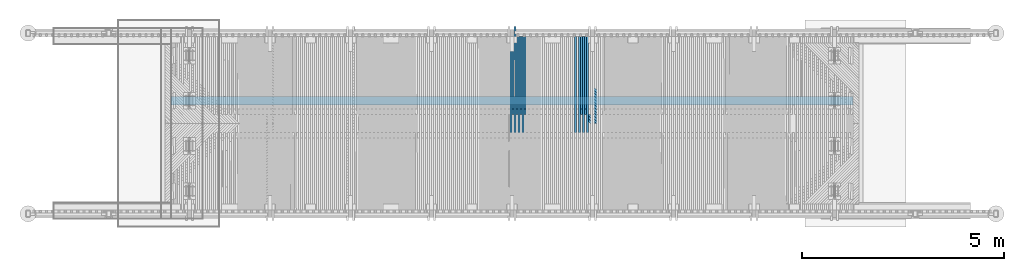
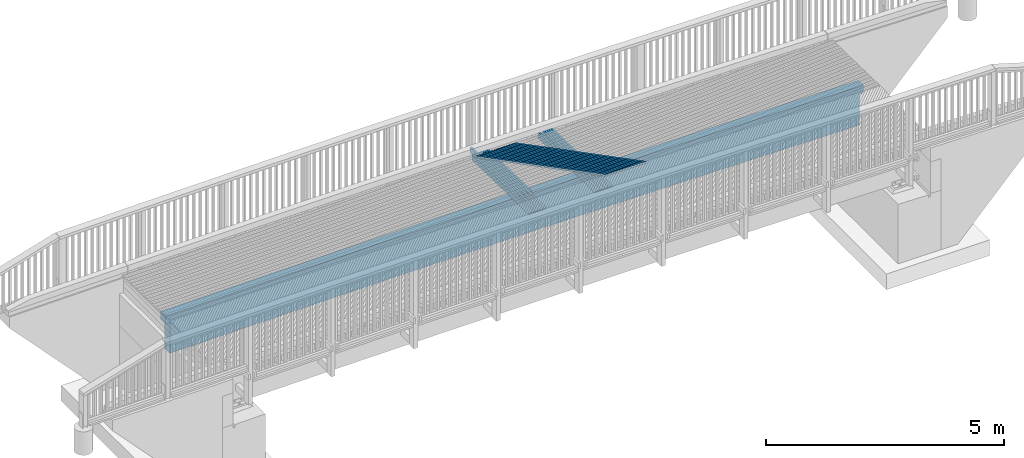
# One storey, part 33 of 52: 29 beams.
"""IFC2X3 building model written with IfcOpenShell, lengths in millimetres."""

from ifc_helpers import new_model, si_unit, frame, origin_with_axes, place, context, subcontext, project, spatial, faceted_brep, material, type_object, element, save


model = new_model("IFC2X3")

# Units and contexts
model_context = context("Model", 3, precision=1e-05, world=origin_with_axes())
body_context = subcontext(model_context, "Body", "Model", "MODEL_VIEW")
ifc_project = project(units=[si_unit("LENGTHUNIT", "METRE", prefix="MILLI"), si_unit("AREAUNIT", "SQUARE_METRE"), si_unit("VOLUMEUNIT", "CUBIC_METRE"), si_unit("MASSUNIT", "GRAM", prefix="KILO"), si_unit("TIMEUNIT", "SECOND"), si_unit("PLANEANGLEUNIT", "RADIAN"), si_unit("SOLIDANGLEUNIT", "STERADIAN"), si_unit("THERMODYNAMICTEMPERATUREUNIT", "DEGREE_CELSIUS"), si_unit("LUMINOUSINTENSITYUNIT", "LUMEN")], contexts=[model_context])

# Site, building, storey
site_placement = place(None, origin_with_axes())
site = spatial("IfcSite", under=ifc_project, at=site_placement, Name="Undefined", CompositionType="ELEMENT")
building_placement = place(site_placement, origin_with_axes())
building = spatial("IfcBuilding", under=site, at=building_placement, Name="Undefined", CompositionType="ELEMENT")
storey_placement = place(building_placement, origin_with_axes())
storey = spatial("IfcBuildingStorey", under=building, at=storey_placement, Name="Undefined", CompositionType="ELEMENT", Elevation=0.0)

# Beams
ifc_material = material(Name="TIMBER/Timber_Undefined")
beam_type_1 = type_object("IfcBeamType", Name="50*50", PredefinedType="NOTDEFINED")
for number, where, z_axis, x_axis, name in (
    (1, (10894.0405199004, 2365.49989967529, 3229.16691949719), (0.707044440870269, 0.70698194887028, -0.0162690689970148), (-0.707162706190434, 0.706948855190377, -0.0120092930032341), "BEAM"),
    (2, (10823.3170835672, 2365.49989967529, 3229.50270179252), (0.70704634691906, 0.706981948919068, -0.0161860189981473), (-0.707161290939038, 0.706948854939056, -0.0120923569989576), "BEAM"),
    (3, (10752.5936082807, 2365.49989967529, 3229.83017686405), (0.70704824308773, 0.706981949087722, -0.0161029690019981), (-0.707159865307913, 0.706948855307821, -0.0121754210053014), "BEAM"),
    (4, (10681.8700950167, 2365.49989967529, 3230.14934470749), (0.707050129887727, 0.706981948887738, -0.0160199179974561), (-0.707158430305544, 0.706948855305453, -0.0122584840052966), "BEAM"),
    (5, (10611.1465447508, 2365.49989967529, 3230.46020531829), (0.707052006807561, 0.70698194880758, -0.0159368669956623), (-0.707156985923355, 0.706948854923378, -0.0123415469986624), "BEAM"),
    (6, (10540.422958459, 2365.49989967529, 3230.76275869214), (0.707053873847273, 0.706981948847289, -0.0158538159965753), (-0.707155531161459, 0.706948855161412, -0.0124246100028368), "BEAM"),
    (7, (10469.6993371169, 2365.49989967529, 3231.05700482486), (0.707055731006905, 0.706981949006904, -0.0157707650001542), (-0.707154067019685, 0.706948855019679, -0.0125076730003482), "BEAM"),
    (8, (10398.9756817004, 2365.49989967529, 3231.34294371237), (0.707057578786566, 0.706981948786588, -0.0156877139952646), (-0.707152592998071, 0.706948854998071, -0.0125907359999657), "BEAM"),
    (9, (10328.2519931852, 2365.49989967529, 3231.62057535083), (0.707059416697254, 0.706981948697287, -0.0156046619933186), (-0.707151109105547, 0.706948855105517, -0.0126737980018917), "BEAM"),
    (10, (10257.5282725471, 2365.49989967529, 3231.88989973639), (0.707061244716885, 0.706981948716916, -0.0155216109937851), (-0.707149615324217, 0.706948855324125, -0.0127568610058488), "BEAM"),
    (11, (10186.8045207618, 2365.49989967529, 3232.15091686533), (0.707063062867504, 0.70698194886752, -0.0154385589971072), (-0.707148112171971, 0.706948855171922, -0.0128399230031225), "BEAM"),
    (12, (10116.0807388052, 2365.49989967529, 3232.40362673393), (0.707064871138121, 0.706981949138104, -0.0153555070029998), (-0.707146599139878, 0.706948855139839, -0.0129229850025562), "BEAM"),
    (13, (10045.356927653, 2365.49989967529, 3232.64802933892), (0.707066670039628, 0.706981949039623, -0.0152724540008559), (-0.707145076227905, 0.706948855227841, -0.0130060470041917), "BEAM"),
    (14, (9974.63308828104, 2365.49989967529, 3232.8841246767), (0.707068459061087, 0.706981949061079, -0.0151894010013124), (-0.707143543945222, 0.706948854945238, -0.0130891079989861), "BEAM"),
):
    element("IfcBeam", number, at=place(storey_placement, frame(where, z_axis=z_axis, x_axis=x_axis)), inside=storey, type_object=beam_type_1, material=ifc_material, Name=name, ObjectType="50*50", context=body_context, shape_type="Brep", body=[
        faceted_brep([(23.5869248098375, 25.0, -25.0000000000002), (-26.4154158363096, 25.0000000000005, 24.9999999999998), (2802.92643296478, 25.0, 24.9999999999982), (2852.92877373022, 25.0000000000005, -25.0), (-25.0011704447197, -25.0, 24.9999999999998), (2804.3406783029, -25.0000000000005, 24.9999999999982), (25.0011701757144, -25.0, -25.0), (2854.34301907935, -24.9999999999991, -25.0)], [[[0, 1, 2, 3]], [[1, 4, 5, 2]], [[4, 6, 7, 5]], [[6, 0, 3, 7]], [[5, 7, 3, 2]], [[6, 4, 1, 0]]]),
    ])
beam_type_2 = type_object("IfcBeamType", Name="150*50", PredefinedType="NOTDEFINED")
for number, where, z_axis, x_axis, name in (
    (15, (9875.54866800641, 4513.4953923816, 3090.22816959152), (0.00303469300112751, 0.0199960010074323, 0.999795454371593), (6.06930000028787e-05, -0.999800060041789, 0.0199959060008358), "BEAM"),
    (16, (9775.52909420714, 4513.4953923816, 3090.53149263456), (0.00286857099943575, 0.0199960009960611, 0.999795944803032), (5.73710000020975e-05, -0.999800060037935, 0.0199959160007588), "BEAM"),
):
    element("IfcBeam", number, at=place(storey_placement, frame(where, z_axis=z_axis, x_axis=x_axis)), inside=storey, type_object=beam_type_2, material=ifc_material, Name=name, ObjectType="150*50", context=body_context, shape_type="Brep", body=[
        faceted_brep([(-1.67788130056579e-07, -24.9999999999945, -74.9999999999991), (-1.67787220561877e-07, 25.0000000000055, -75.0), (2375.00494422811, 25.0000000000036, -74.9999999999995), (2375.0049444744, -24.9999999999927, -74.9999999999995), (1.67786311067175e-07, -24.9999999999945, 75.0000000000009), (1.67786311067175e-07, 25.0000000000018, 75.0), (2150.42515052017, 25.0000000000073, 75.0), (2510.59248715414, 25.0000000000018, 60.5875433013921), (2510.5924871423, -24.9999999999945, 60.5875430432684), (2150.42514405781, -24.9999999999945, 75.0000000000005)], [[[0, 1, 2, 3]], [[0, 4, 5, 1]], [[2, 1, 5, 6, 7]], [[3, 2, 7, 8]], [[4, 0, 3, 8, 9]], [[5, 4, 9, 6]], [[8, 7, 6, 9]]]),
    ])
beam_1_placement = place(storey_placement, frame((9825.54889674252, 4513.49539238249, 3090.37966862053), z_axis=(0.00303469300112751, 0.0199960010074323, 0.999795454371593), x_axis=(6.06930000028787e-05, -0.999800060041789, 0.0199959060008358)))
element("IfcBeam", 17, at=beam_1_placement, inside=storey, type_object=beam_type_2, material=ifc_material, Name="BEAM", ObjectType="150*50", context=body_context, shape_type="Brep", body=[
    faceted_brep([(-1.67788130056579e-07, -24.9999999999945, -74.9999999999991), (1.67786311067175e-07, -24.9999999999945, 75.0000000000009), (1.67786311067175e-07, 25.0000000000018, 75.0), (-1.67787220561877e-07, 25.0000000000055, -75.0), (1789.96936408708, 24.9999999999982, 75.0000000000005), (1928.42646328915, 24.9999999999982, -74.9999999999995), (1928.42646353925, -25.0, -75.0), (1789.96936433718, -25.0000000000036, 74.9999999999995)], [[[0, 1, 2, 3]], [[3, 2, 4, 5]], [[0, 3, 5, 6]], [[1, 0, 6, 7]], [[2, 1, 7, 4]], [[5, 4, 7, 6]]]),
])
beam_2_placement = place(storey_placement, frame((9675.50947138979, 4513.4953923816, 3090.81819688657), z_axis=(0.00270244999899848, 0.0199960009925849, 0.999796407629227), x_axis=(5.40480000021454e-05, -0.999800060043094, 0.0199959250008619)))
element("IfcBeam", 18, at=beam_2_placement, inside=storey, type_object=beam_type_2, material=ifc_material, Name="BEAM", ObjectType="150*50", context=body_context, shape_type="Brep", body=[
    faceted_brep([(-1.67788130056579e-07, -24.9999999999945, -74.9999999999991), (-1.67787220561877e-07, 25.0000000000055, -75.0), (2375.00494422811, 25.0000000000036, -74.9999999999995), (2375.0049444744, -24.9999999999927, -74.9999999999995), (1.67786311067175e-07, -24.9999999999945, 75.0000000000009), (1.67786311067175e-07, 25.0000000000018, 75.0), (2150.42515052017, 25.0000000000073, 75.0), (2510.59248715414, 25.0000000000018, 60.5875433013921), (2510.5924871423, -24.9999999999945, 60.5875430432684), (2150.42514405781, -24.9999999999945, 75.0000000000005)], [[[0, 1, 2, 3]], [[0, 4, 5, 1]], [[2, 1, 5, 6, 7]], [[3, 2, 7, 8]], [[4, 0, 3, 8, 9]], [[5, 4, 9, 6]], [[8, 7, 6, 9]]]),
])
beam_3_placement = place(storey_placement, frame((9725.52929846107, 4513.49539238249, 3090.67468393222), z_axis=(0.00286857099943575, 0.0199960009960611, 0.999795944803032), x_axis=(5.73710000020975e-05, -0.999800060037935, 0.0199959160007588)))
element("IfcBeam", 19, at=beam_3_placement, inside=storey, type_object=beam_type_2, material=ifc_material, Name="BEAM", ObjectType="150*50", context=body_context, shape_type="Brep", body=[
    faceted_brep([(-1.67788130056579e-07, -24.9999999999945, -74.9999999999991), (1.67786311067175e-07, -24.9999999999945, 75.0000000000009), (1.67786311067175e-07, 25.0000000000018, 75.0), (-1.67787220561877e-07, 25.0000000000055, -75.0), (1789.96936408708, 24.9999999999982, 75.0000000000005), (1928.42646328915, 24.9999999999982, -74.9999999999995), (1928.42646353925, -25.0, -75.0), (1789.96936433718, -25.0000000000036, 74.9999999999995)], [[[0, 1, 2, 3]], [[3, 2, 4, 5]], [[0, 3, 5, 6]], [[1, 0, 6, 7]], [[2, 1, 7, 4]], [[5, 4, 7, 6]]]),
])
for number, where, z_axis, x_axis, name in (
    (20, (9575.48980231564, 4513.4953923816, 3091.08828233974), (0.0025363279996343, 0.0199960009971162, 0.999796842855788), (5.07260000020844e-05, -0.999800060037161, 0.0199959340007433), "BEAM"),
    (21, (8275.23115137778, 4513.4953923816, 3093.08707977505), (0.000376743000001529, 0.0199960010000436, 0.999799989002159), (7.53400000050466e-06, -0.999800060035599, 0.0199959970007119), "BEAM"),
):
    element("IfcBeam", number, at=place(storey_placement, frame(where, z_axis=z_axis, x_axis=x_axis)), inside=storey, type_object=beam_type_2, material=ifc_material, Name=name, ObjectType="150*50", context=body_context, shape_type="Brep", body=[
        faceted_brep([(-1.67788130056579e-07, -24.9999999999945, -74.9999999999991), (-1.67787220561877e-07, 25.0000000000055, -75.0), (2375.00494422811, 25.0000000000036, -74.9999999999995), (2375.0049444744, -24.9999999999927, -74.9999999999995), (1.67786311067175e-07, -24.9999999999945, 75.0000000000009), (1.67786311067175e-07, 25.0000000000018, 75.0), (2150.42515052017, 25.0000000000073, 75.0), (2510.59248715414, 25.0000000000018, 60.5875433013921), (2510.5924871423, -24.9999999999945, 60.5875430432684), (2150.42514405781, -24.9999999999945, 75.0000000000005)], [[[0, 1, 2, 3]], [[0, 4, 5, 1]], [[2, 1, 5, 6, 7]], [[3, 2, 7, 8]], [[4, 0, 3, 8, 9]], [[5, 4, 9, 6]], [[8, 7, 6, 9]]]),
    ])
beam_4_placement = place(storey_placement, frame((8325.25117695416, 4513.49539238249, 3093.05992196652), z_axis=(0.000542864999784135, 0.0199960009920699, 0.999799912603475), x_axis=(1.08570000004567e-05, -0.999800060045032, 0.0199959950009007)))
element("IfcBeam", 22, at=beam_4_placement, inside=storey, type_object=beam_type_2, material=ifc_material, Name="BEAM", ObjectType="150*50", context=body_context, shape_type="Brep", body=[
    faceted_brep([(-1.67788130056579e-07, -24.9999999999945, -74.9999999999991), (1.67786311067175e-07, -24.9999999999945, 75.0000000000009), (1.67786311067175e-07, 25.0000000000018, 75.0), (-1.67787220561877e-07, 25.0000000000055, -75.0), (1789.96936408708, 24.9999999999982, 75.0000000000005), (1928.42646328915, 24.9999999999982, -74.9999999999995), (1928.42646353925, -25.0, -75.0), (1789.96936433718, -25.0000000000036, 74.9999999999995)], [[[0, 1, 2, 3]], [[3, 2, 4, 5]], [[0, 3, 5, 6]], [[1, 0, 6, 7]], [[2, 1, 7, 4]], [[5, 4, 7, 6]]]),
])
beam_5_placement = place(storey_placement, frame((8175.21112464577, 4513.4953923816, 3093.12450147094), z_axis=(0.000210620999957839, 0.0199960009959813, 0.999800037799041), x_axis=(4.21200000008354e-06, -0.999800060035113, 0.0199959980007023)))
element("IfcBeam", 23, at=beam_5_placement, inside=storey, type_object=beam_type_2, material=ifc_material, Name="BEAM", ObjectType="150*50", context=body_context, shape_type="Brep", body=[
    faceted_brep([(-1.67788130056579e-07, -24.9999999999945, -74.9999999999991), (-1.67787220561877e-07, 25.0000000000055, -75.0), (2375.00494422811, 25.0000000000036, -74.9999999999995), (2375.0049444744, -24.9999999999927, -74.9999999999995), (1.67786311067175e-07, -24.9999999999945, 75.0000000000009), (1.67786311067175e-07, 25.0000000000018, 75.0), (2150.42515052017, 25.0000000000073, 75.0), (2510.59248715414, 25.0000000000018, 60.5875433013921), (2510.5924871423, -24.9999999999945, 60.5875430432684), (2150.42514405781, -24.9999999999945, 75.0000000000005)], [[[0, 1, 2, 3]], [[0, 4, 5, 1]], [[2, 1, 5, 6, 7]], [[3, 2, 7, 8]], [[4, 0, 3, 8, 9]], [[5, 4, 9, 6]], [[8, 7, 6, 9]]]),
])
for number, where, z_axis, x_axis, name in (
    (24, (8225.23115404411, 4513.49539238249, 3093.10565475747), (0.000376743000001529, 0.0199960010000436, 0.999799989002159), (7.53400000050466e-06, -0.999800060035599, 0.0199959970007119), "BEAM"),
    (25, (8125.21112491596, 4513.49539238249, 3093.13476868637), (0.000210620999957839, 0.0199960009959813, 0.999800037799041), (4.21200000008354e-06, -0.999800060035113, 0.0199959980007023), "BEAM"),
):
    element("IfcBeam", number, at=place(storey_placement, frame(where, z_axis=z_axis, x_axis=x_axis)), inside=storey, type_object=beam_type_2, material=ifc_material, Name=name, ObjectType="150*50", context=body_context, shape_type="Brep", body=[
        faceted_brep([(-1.67788130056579e-07, -24.9999999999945, -74.9999999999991), (1.67786311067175e-07, -24.9999999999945, 75.0000000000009), (1.67786311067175e-07, 25.0000000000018, 75.0), (-1.67787220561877e-07, 25.0000000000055, -75.0), (1789.96936408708, 24.9999999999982, 75.0000000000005), (1928.42646328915, 24.9999999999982, -74.9999999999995), (1928.42646353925, -25.0, -75.0), (1789.96936433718, -25.0000000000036, 74.9999999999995)], [[[0, 1, 2, 3]], [[3, 2, 4, 5]], [[0, 3, 5, 6]], [[1, 0, 6, 7]], [[2, 1, 7, 4]], [[5, 4, 7, 6]]]),
    ])
beam_6_placement = place(storey_placement, frame((7975.1710594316, 4513.4953923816, 3093.14948827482), z_axis=(-0.000121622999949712, 0.0199960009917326, 0.999800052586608), x_axis=(-2.43299999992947e-06, -0.999800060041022, 0.0199959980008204)))
element("IfcBeam", 26, at=beam_6_placement, inside=storey, type_object=beam_type_2, material=ifc_material, Name="BEAM", ObjectType="150*50", context=body_context, shape_type="Brep", body=[
    faceted_brep([(-1.67788130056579e-07, -24.9999999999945, -74.9999999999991), (-1.67787220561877e-07, 25.0000000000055, -75.0), (2375.00494422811, 25.0000000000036, -74.9999999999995), (2375.0049444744, -24.9999999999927, -74.9999999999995), (1.67786311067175e-07, -24.9999999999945, 75.0000000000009), (1.67786311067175e-07, 25.0000000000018, 75.0), (2150.42515052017, 25.0000000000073, 75.0), (2510.59248715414, 25.0000000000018, 60.5875433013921), (2510.5924871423, -24.9999999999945, 60.5875430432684), (2150.42514405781, -24.9999999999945, 75.0000000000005)], [[[0, 1, 2, 3]], [[0, 4, 5, 1]], [[2, 1, 5, 6, 7]], [[3, 2, 7, 8]], [[4, 0, 3, 8, 9]], [[5, 4, 9, 6]], [[8, 7, 6, 9]]]),
])
beam_7_placement = place(storey_placement, frame((8025.19109233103, 4513.49539238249, 3093.14726375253), z_axis=(4.44979999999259e-05, 0.0199960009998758, 0.999800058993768), x_axis=(8.90000000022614e-07, -0.999800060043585, 0.0199959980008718)))
element("IfcBeam", 27, at=beam_7_placement, inside=storey, type_object=beam_type_2, material=ifc_material, Name="BEAM", ObjectType="150*50", context=body_context, shape_type="Brep", body=[
    faceted_brep([(-1.67788130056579e-07, -24.9999999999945, -74.9999999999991), (1.67786311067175e-07, -24.9999999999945, 75.0000000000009), (1.67786311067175e-07, 25.0000000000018, 75.0), (-1.67787220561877e-07, 25.0000000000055, -75.0), (1789.96936408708, 24.9999999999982, 75.0000000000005), (1928.42646328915, 24.9999999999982, -74.9999999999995), (1928.42646353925, -25.0, -75.0), (1789.96936433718, -25.0000000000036, 74.9999999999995)], [[[0, 1, 2, 3]], [[3, 2, 4, 5]], [[0, 3, 5, 6]], [[1, 0, 6, 7]], [[2, 1, 7, 4]], [[5, 4, 7, 6]]]),
])
beam_8_placement = place(storey_placement, frame((8075.17061305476, 4771.44380785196, 3087.98545943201), z_axis=(4.44979999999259e-05, 0.0199960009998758, 0.999800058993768), x_axis=(8.90000000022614e-07, -0.999800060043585, 0.0199959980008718)))
element("IfcBeam", 28, at=beam_8_placement, inside=storey, type_object=beam_type_2, material=ifc_material, Name="BEAM", ObjectType="150*50", context=body_context, shape_type="Brep", body=[
    faceted_brep([(-1.67788130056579e-07, -24.9999999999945, -74.9999999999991), (-1.67787220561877e-07, 25.0000000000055, -75.0), (2633.00494750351, 25.0, -74.9999999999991), (2633.00494763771, -25.0, -74.9999999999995), (1.67786311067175e-07, -24.9999999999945, 75.0000000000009), (1.67786311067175e-07, 25.0000000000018, 75.0), (2408.42506824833, 25.0, 75.0000000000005), (2768.59248710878, 24.9999999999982, 60.5875398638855), (2768.59248713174, -25.0, 60.5875397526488), (2408.42506549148, -25.0, 75.0000000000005)], [[[0, 1, 2, 3]], [[0, 4, 5, 1]], [[2, 1, 5, 6, 7]], [[3, 2, 7, 8]], [[4, 0, 3, 8, 9]], [[5, 4, 9, 6]], [[8, 7, 6, 9]]]),
])
beam_type_3 = type_object("IfcBeamType", Name="990*215", PredefinedType="NOTDEFINED")
beam_9_placement = place(storey_placement, frame((243.613169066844, 2925.0, 2502.11879463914), z_axis=(0.0, 0.0, 1.0), x_axis=(1.0, 0.0, 0.0)))
element("IfcBeam", 29, at=beam_9_placement, inside=storey, type_object=beam_type_3, material=ifc_material, Name="PALKKI", ObjectType="990*215", context=body_context, shape_type="Brep", body=[
    faceted_brep([(16106.3868309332, 107.5, -494.790894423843), (16106.3868309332, -107.5, -494.790894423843), (16080.5342107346, -107.5, -494.790894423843), (15793.4597682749, -107.5, -494.790894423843), (15506.3868309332, -107.5, -494.958794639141), (15506.3868309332, 107.5, -494.958794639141), (15793.4597682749, 107.5, -494.790894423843), (16080.5342107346, 107.5, -494.790894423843), (16106.3868309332, 107.5, 285.209105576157), (16106.3868309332, -107.5, 285.209105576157), (16206.3868309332, 107.5, 285.209105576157), (16206.3868309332, -107.5, 285.209105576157), (16206.3868309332, 107.5, 485.682039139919), (16206.3868309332, -107.5, 485.682039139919), (-627.370013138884, 107.5, 486.625216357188), (-627.370013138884, -107.5, 486.625216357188), (-316.879497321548, -107.5, 490.87213125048), (-316.879497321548, 107.5, 490.87213125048), (-693.613169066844, -107.5, 485.684940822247), (-693.613169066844, -107.5, 285.209105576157), (-624.563039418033, -107.5, 285.209105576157), (-693.613169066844, 107.5, 485.684940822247), (-693.613169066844, 107.5, 285.209105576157), (-624.563039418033, 107.5, 285.209105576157), (-593.613169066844, 107.5, 285.209105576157), (-593.613169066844, -107.5, 285.209105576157), (-593.613169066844, 107.5, -494.790894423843), (-593.613169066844, -107.5, -494.790894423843), (-303.651924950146, -107.5, -494.790894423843), (-6.38683093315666, -107.5, 494.958794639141), (6.38683093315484, -107.5, -494.958794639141), (-6.38683093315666, 107.5, 494.958794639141), (6.38683093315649, 107.5, -494.790894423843), (304.107903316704, 107.5, 498.885205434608), (316.370645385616, 107.5, -491.038844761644), (-303.651924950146, 107.5, -494.790894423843), (316.370645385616, -107.5, -491.038844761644), (304.107903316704, -107.5, 498.885205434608), (614.604622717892, -107.5, 502.651362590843), (614.604622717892, 107.5, 502.651362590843), (626.356441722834, 107.5, -487.278884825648), (626.356441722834, -107.5, -487.278884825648), (936.344137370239, -107.5, -483.678915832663), (925.103244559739, -107.5, 506.257265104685), (925.103244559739, 107.5, 506.257265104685), (936.344137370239, 107.5, -483.678915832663), (1246.33364975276, 107.5, -480.238938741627), (1246.33364975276, -107.5, -480.238938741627), (1235.60368613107, -107.5, 509.702912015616), (1235.60368613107, 107.5, 509.702912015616), (1546.10586472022, 107.5, 512.988302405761), (1556.32489629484, 107.5, -476.958954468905), (1556.32489629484, -107.5, -476.958954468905), (1546.10586472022, -107.5, 512.988302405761), (1856.60969761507, -107.5, 516.113435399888), (1856.60969761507, 107.5, 516.113435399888), (1866.31779442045, 107.5, -473.838963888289), (1866.31779442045, -107.5, -473.838963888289), (2176.31226155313, -107.5, -470.878967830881), (2167.11510210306, -107.5, 519.078310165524), (2167.11510210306, 107.5, 519.078310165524), (2176.31226155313, 107.5, -470.878967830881), (2486.30821511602, 107.5, -468.078967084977), (2486.30821511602, -107.5, -468.078967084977), (2477.6219954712, -107.5, 521.882925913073), (2477.6219954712, 107.5, 521.882925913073), (2788.13029500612, 107.5, 524.527281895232), (2796.30557253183, 107.5, -465.438962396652), (2796.30557253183, -107.5, -465.438962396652), (2788.13029500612, -107.5, 524.527281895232), (3098.63991799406, -107.5, 527.011377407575), (3098.63991799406, 107.5, 527.011377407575), (3106.30425122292, 107.5, -462.958954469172), (3106.30425122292, -107.5, -462.958954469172), (3416.30416861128, -107.5, -460.638943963), (3409.15078172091, -107.5, 529.335211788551), (3409.15078172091, 107.5, 529.335211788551), (3416.30416861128, 107.5, -460.638943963), (3726.30524211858, 107.5, -458.478931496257), (3726.30524211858, -107.5, -458.478931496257), (3719.66280347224, -107.5, 531.49878441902), (3719.66280347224, 107.5, 531.49878441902), (4030.1759005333, 107.5, 533.502094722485), (4036.3073891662, 107.5, -456.478917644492), (4036.3073891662, -107.5, -456.478917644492), (4030.1759005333, -107.5, 533.502094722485), (4340.68999018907, -107.5, 535.345142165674), (4340.68999018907, 107.5, 535.345142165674), (4346.3105271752, 107.5, -454.638902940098), (4346.3105271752, -107.5, -454.638902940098), (4656.31457356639, -107.5, -452.958887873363), (4651.20498972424, -107.5, 537.027926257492), (4651.20498972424, 107.5, 537.027926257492), (4656.31457356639, 107.5, -452.958887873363), (4966.31944576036, 107.5, -451.438872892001), (4966.31944576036, -107.5, -451.438872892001), (4961.72081642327, -107.5, 538.550446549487), (4961.72081642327, 107.5, 538.550446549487), (5272.23738757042, 107.5, 539.912702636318), (5276.32506117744, 107.5, -450.078858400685), (5276.32506117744, -107.5, -450.078858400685), (5272.23738757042, -107.5, 539.912702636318), (5582.75462044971, -107.5, 541.114694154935), (5582.75462044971, 107.5, 541.114694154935), (5586.33133723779, 107.5, -448.878844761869), (5586.33133723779, -107.5, -448.878844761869), (5896.33819136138, -107.5, -447.838832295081), (5893.27243234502, -107.5, 542.156420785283), (5893.27243234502, 107.5, 542.156420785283), (5896.33819136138, 107.5, -447.838832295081), (6206.34554096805, 107.5, -446.958821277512), (6206.34554096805, -107.5, -446.958821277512), (6203.79074054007, -107.5, 543.037882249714), (6203.79074054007, 107.5, 543.037882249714), (6514.30946231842, 107.5, 543.759078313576), (6516.35330347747, 107.5, -446.238811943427), (6516.35330347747, -107.5, -446.238811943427), (6514.30946231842, -107.5, 543.759078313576), (6824.82851496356, -107.5, 544.320008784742), (6824.82851496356, 107.5, 544.320008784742), (6826.36139630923, 107.5, -445.678804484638), (6826.36139630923, -107.5, -445.678804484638), (7136.36973688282, -107.5, -445.278799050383), (7135.34781575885, -107.5, 544.720673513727), (7135.34781575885, 107.5, 544.720673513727), (7136.36973688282, 107.5, -445.278799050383), (7446.37824261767, 107.5, -445.038795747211), (7446.37824261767, -107.5, -445.038795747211), (7445.86728198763, -107.5, 544.961072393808), (7445.86728198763, 107.5, 544.961072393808), (7756.38683093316, 107.5, 545.041205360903), (7756.38683093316, 107.5, -444.958794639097), (7756.38683093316, -107.5, -444.958794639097), (7756.38683093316, -107.5, 545.041205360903), (8066.90637987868, -107.5, 544.961072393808), (8066.90637987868, 107.5, 544.961072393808), (8066.39541924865, 107.5, -445.038795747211), (8066.39541924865, -107.5, -445.038795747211), (8376.40392498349, -107.5, -445.278799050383), (8377.42584610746, -107.5, 544.720673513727), (8377.42584610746, 107.5, 544.720673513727), (8376.40392498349, 107.5, -445.278799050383), (8686.41226555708, 107.5, -445.678804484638), (8686.41226555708, -107.5, -445.678804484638), (8687.94514690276, -107.5, 544.320008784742), (8687.94514690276, 107.5, 544.320008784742), (8998.46419954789, 107.5, 543.759078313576), (8996.42035838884, 107.5, -446.238811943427), (8996.42035838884, -107.5, -446.238811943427), (8998.46419954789, -107.5, 543.759078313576), (9308.98292132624, -107.5, 543.037882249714), (9308.98292132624, 107.5, 543.037882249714), (9306.42812089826, 107.5, -446.958821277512), (9306.42812089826, -107.5, -446.958821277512), (9616.43547050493, -107.5, -447.838832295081), (9619.50122952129, -107.5, 542.156420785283), (9619.50122952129, 107.5, 542.156420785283), (9616.43547050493, 107.5, -447.838832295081), (9926.44232462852, 107.5, -448.878844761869), (9926.44232462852, -107.5, -448.878844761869), (9930.0190414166, -107.5, 541.114694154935), (9930.0190414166, 107.5, 541.114694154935), (10240.5362742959, 107.5, 539.912702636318), (10236.4486006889, 107.5, -450.078858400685), (10236.4486006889, -107.5, -450.078858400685), (10240.5362742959, -107.5, 539.912702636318), (10551.052845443, -107.5, 538.550446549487), (10551.052845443, 107.5, 538.550446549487), (10546.454216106, 107.5, -451.438872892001), (10546.454216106, -107.5, -451.438872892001), (10856.4590882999, -107.5, -452.958887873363), (10861.5686721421, -107.5, 537.027926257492), (10861.5686721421, 107.5, 537.027926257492), (10856.4590882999, 107.5, -452.958887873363), (11166.4631346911, 107.5, -454.638902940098), (11166.4631346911, -107.5, -454.638902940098), (11172.0836716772, -107.5, 535.345142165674), (11172.0836716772, 107.5, 535.345142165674), (11482.597761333, 107.5, 533.502094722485), (11476.4662727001, 107.5, -456.478917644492), (11476.4662727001, -107.5, -456.478917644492), (11482.597761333, -107.5, 533.502094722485), (11793.1108583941, -107.5, 531.49878441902), (11793.1108583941, 107.5, 531.49878441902), (11786.4684197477, 107.5, -458.478931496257), (11786.4684197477, -107.5, -458.478931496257), (12096.469493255, -107.5, -460.638943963), (12103.6228801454, -107.5, 529.335211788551), (12103.6228801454, 107.5, 529.335211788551), (12096.469493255, 107.5, -460.638943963), (12406.4694106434, 107.5, -462.958954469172), (12406.4694106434, -107.5, -462.958954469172), (12414.1337438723, -107.5, 527.011377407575), (12414.1337438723, 107.5, 527.011377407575), (12724.6433668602, 107.5, 524.527281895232), (12716.4680893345, 107.5, -465.438962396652), (12716.4680893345, -107.5, -465.438962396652), (12724.6433668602, -107.5, 524.527281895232), (13035.1516663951, -107.5, 521.882925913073), (13035.1516663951, 107.5, 521.882925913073), (13026.4654467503, 107.5, -468.078967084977), (13026.4654467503, -107.5, -468.078967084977), (13336.4614003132, -107.5, -470.878967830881), (13345.6585597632, -107.5, 519.078310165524), (13345.6585597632, 107.5, 519.078310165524), (13336.4614003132, 107.5, -470.878967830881), (13646.4558674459, 107.5, -473.838963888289), (13646.4558674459, -107.5, -473.838963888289), (13656.1639642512, -107.5, 516.113435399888), (13656.1639642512, 107.5, 516.113435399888), (13966.6677971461, 107.5, 512.988302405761), (13956.4487655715, 107.5, -476.958954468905), (13956.4487655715, -107.5, -476.958954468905), (13966.6677971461, -107.5, 512.988302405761), (14277.1699757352, -107.5, 509.702912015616), (14277.1699757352, 107.5, 509.702912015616), (14266.4400121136, 107.5, -480.238938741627), (14266.4400121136, -107.5, -480.238938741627), (14576.4295244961, -107.5, -483.678915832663), (14587.6704173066, -107.5, 506.257265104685), (14587.6704173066, 107.5, 506.257265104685), (14576.4295244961, 107.5, -483.678915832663), (14886.4172201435, 107.5, -487.278884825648), (14886.4172201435, -107.5, -487.278884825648), (14898.1690391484, -107.5, 502.651362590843), (14898.1690391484, 107.5, 502.651362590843), (15208.6657585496, 107.5, 498.885205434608), (15196.4030164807, 107.5, -491.038844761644), (15196.4030164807, -107.5, -491.038844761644), (15208.6657585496, -107.5, 498.885205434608), (15519.1604927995, -107.5, 494.958794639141), (15519.1604927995, 107.5, 494.958794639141), (15806.6537751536, -107.5, 491.180342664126), (15806.6537751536, 107.5, 491.180342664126), (16094.1452189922, -107.5, 487.264500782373), (16094.1452189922, 107.5, 487.264500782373)], [[[0, 1, 2, 3, 4, 5, 6, 7]], [[8, 9, 1, 0]], [[10, 11, 9, 8]], [[12, 13, 11, 10]], [[14, 15, 16, 17]], [[15, 18, 19, 20]], [[21, 22, 19, 18]], [[15, 14, 21, 18]], [[21, 14, 23, 22]], [[24, 25, 20, 19, 22, 23]], [[26, 27, 25, 24]], [[16, 15, 20, 25, 27, 28]], [[29, 16, 28, 30]], [[17, 16, 29, 31]], [[32, 31, 33, 34]], [[17, 31, 32, 35]], [[24, 23, 14, 17, 35, 26]], [[32, 30, 28, 27, 26, 35]], [[34, 36, 30, 32]], [[29, 30, 36, 37]], [[31, 29, 37, 33]], [[33, 37, 38, 39]], [[34, 33, 39, 40]], [[36, 34, 40, 41]], [[37, 36, 41, 38]], [[38, 41, 42, 43]], [[39, 38, 43, 44]], [[40, 39, 44, 45]], [[41, 40, 45, 42]], [[42, 45, 46, 47]], [[43, 42, 47, 48]], [[44, 43, 48, 49]], [[45, 44, 49, 46]], [[46, 49, 50, 51]], [[47, 46, 51, 52]], [[48, 47, 52, 53]], [[49, 48, 53, 50]], [[50, 53, 54, 55]], [[51, 50, 55, 56]], [[52, 51, 56, 57]], [[53, 52, 57, 54]], [[54, 57, 58, 59]], [[55, 54, 59, 60]], [[56, 55, 60, 61]], [[57, 56, 61, 58]], [[58, 61, 62, 63]], [[59, 58, 63, 64]], [[60, 59, 64, 65]], [[61, 60, 65, 62]], [[62, 65, 66, 67]], [[63, 62, 67, 68]], [[64, 63, 68, 69]], [[65, 64, 69, 66]], [[66, 69, 70, 71]], [[67, 66, 71, 72]], [[68, 67, 72, 73]], [[69, 68, 73, 70]], [[70, 73, 74, 75]], [[71, 70, 75, 76]], [[72, 71, 76, 77]], [[73, 72, 77, 74]], [[74, 77, 78, 79]], [[75, 74, 79, 80]], [[76, 75, 80, 81]], [[77, 76, 81, 78]], [[78, 81, 82, 83]], [[79, 78, 83, 84]], [[80, 79, 84, 85]], [[81, 80, 85, 82]], [[82, 85, 86, 87]], [[83, 82, 87, 88]], [[84, 83, 88, 89]], [[85, 84, 89, 86]], [[86, 89, 90, 91]], [[87, 86, 91, 92]], [[88, 87, 92, 93]], [[89, 88, 93, 90]], [[90, 93, 94, 95]], [[91, 90, 95, 96]], [[92, 91, 96, 97]], [[93, 92, 97, 94]], [[94, 97, 98, 99]], [[95, 94, 99, 100]], [[96, 95, 100, 101]], [[97, 96, 101, 98]], [[98, 101, 102, 103]], [[99, 98, 103, 104]], [[100, 99, 104, 105]], [[101, 100, 105, 102]], [[102, 105, 106, 107]], [[103, 102, 107, 108]], [[104, 103, 108, 109]], [[105, 104, 109, 106]], [[106, 109, 110, 111]], [[107, 106, 111, 112]], [[108, 107, 112, 113]], [[109, 108, 113, 110]], [[110, 113, 114, 115]], [[111, 110, 115, 116]], [[112, 111, 116, 117]], [[113, 112, 117, 114]], [[114, 117, 118, 119]], [[115, 114, 119, 120]], [[116, 115, 120, 121]], [[117, 116, 121, 118]], [[118, 121, 122, 123]], [[119, 118, 123, 124]], [[120, 119, 124, 125]], [[121, 120, 125, 122]], [[122, 125, 126, 127]], [[123, 122, 127, 128]], [[124, 123, 128, 129]], [[125, 124, 129, 126]], [[126, 129, 130, 131]], [[127, 126, 131, 132]], [[128, 127, 132, 133]], [[129, 128, 133, 130]], [[130, 133, 134, 135]], [[131, 130, 135, 136]], [[132, 131, 136, 137]], [[133, 132, 137, 134]], [[134, 137, 138, 139]], [[135, 134, 139, 140]], [[136, 135, 140, 141]], [[137, 136, 141, 138]], [[138, 141, 142, 143]], [[139, 138, 143, 144]], [[140, 139, 144, 145]], [[141, 140, 145, 142]], [[142, 145, 146, 147]], [[143, 142, 147, 148]], [[144, 143, 148, 149]], [[145, 144, 149, 146]], [[146, 149, 150, 151]], [[147, 146, 151, 152]], [[148, 147, 152, 153]], [[149, 148, 153, 150]], [[150, 153, 154, 155]], [[151, 150, 155, 156]], [[152, 151, 156, 157]], [[153, 152, 157, 154]], [[154, 157, 158, 159]], [[155, 154, 159, 160]], [[156, 155, 160, 161]], [[157, 156, 161, 158]], [[158, 161, 162, 163]], [[159, 158, 163, 164]], [[160, 159, 164, 165]], [[161, 160, 165, 162]], [[162, 165, 166, 167]], [[163, 162, 167, 168]], [[164, 163, 168, 169]], [[165, 164, 169, 166]], [[166, 169, 170, 171]], [[167, 166, 171, 172]], [[168, 167, 172, 173]], [[169, 168, 173, 170]], [[170, 173, 174, 175]], [[171, 170, 175, 176]], [[172, 171, 176, 177]], [[173, 172, 177, 174]], [[174, 177, 178, 179]], [[175, 174, 179, 180]], [[176, 175, 180, 181]], [[177, 176, 181, 178]], [[178, 181, 182, 183]], [[179, 178, 183, 184]], [[180, 179, 184, 185]], [[181, 180, 185, 182]], [[182, 185, 186, 187]], [[183, 182, 187, 188]], [[184, 183, 188, 189]], [[185, 184, 189, 186]], [[186, 189, 190, 191]], [[187, 186, 191, 192]], [[188, 187, 192, 193]], [[189, 188, 193, 190]], [[190, 193, 194, 195]], [[191, 190, 195, 196]], [[192, 191, 196, 197]], [[193, 192, 197, 194]], [[194, 197, 198, 199]], [[195, 194, 199, 200]], [[196, 195, 200, 201]], [[197, 196, 201, 198]], [[198, 201, 202, 203]], [[199, 198, 203, 204]], [[200, 199, 204, 205]], [[201, 200, 205, 202]], [[202, 205, 206, 207]], [[203, 202, 207, 208]], [[204, 203, 208, 209]], [[205, 204, 209, 206]], [[206, 209, 210, 211]], [[207, 206, 211, 212]], [[208, 207, 212, 213]], [[209, 208, 213, 210]], [[210, 213, 214, 215]], [[211, 210, 215, 216]], [[212, 211, 216, 217]], [[213, 212, 217, 214]], [[214, 217, 218, 219]], [[215, 214, 219, 220]], [[216, 215, 220, 221]], [[217, 216, 221, 218]], [[218, 221, 222, 223]], [[219, 218, 223, 224]], [[220, 219, 224, 225]], [[221, 220, 225, 222]], [[222, 225, 226, 227]], [[223, 222, 227, 228]], [[224, 223, 228, 229]], [[225, 224, 229, 226]], [[226, 229, 230, 231]], [[231, 230, 232, 233]], [[233, 232, 234, 235]], [[8, 0, 7, 235, 12, 10]], [[233, 235, 7, 6]], [[231, 233, 6, 5]], [[227, 226, 231, 5]], [[228, 227, 5, 4]], [[229, 228, 4, 230]], [[232, 230, 4, 3]], [[234, 232, 3, 2]], [[234, 2, 1, 9, 11, 13]], [[235, 234, 13, 12]]]),
])

save(model, "model.ifc")
